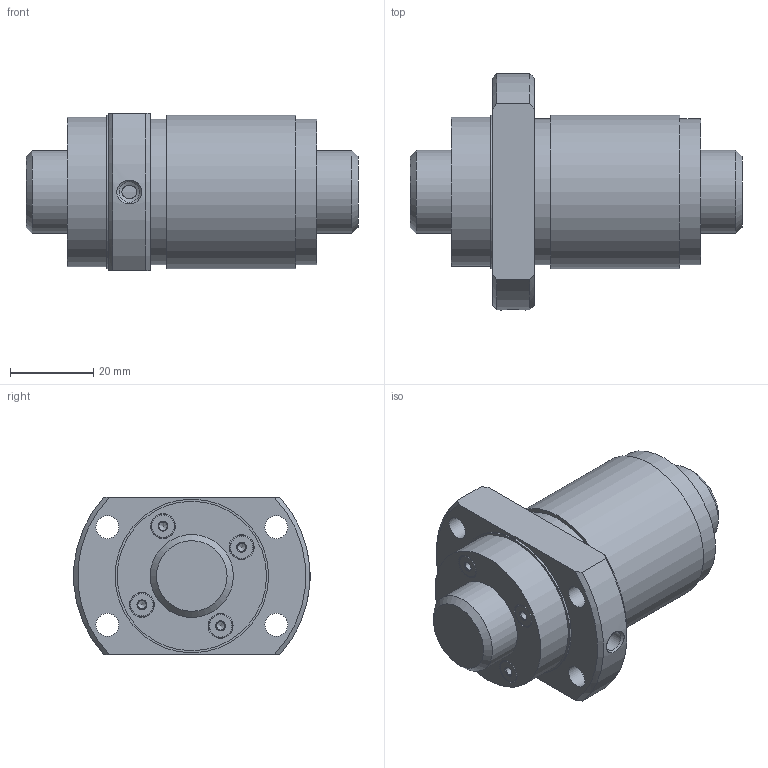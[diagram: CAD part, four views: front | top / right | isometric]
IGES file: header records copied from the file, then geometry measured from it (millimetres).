
Start section: Data from Parasolid IGES Translator 26.0.171, Copyright(c) 2006 Siemens PLM Software. All Rights Reserved.
Global section: file name: WGF2060-1.5G1+80LC3_0_13_0_0.igs; native system: By Siemens PLM Incorporated; preprocessor: XPlus GENERIC/IGES 26.0.171; author: Noname; organization: Noname; date: 20250116.062617; units: millimetre
Bounding box: 80 x 56.91 x 38 mm (x, y, z)
Surface area: 21761.6 mm2 (no closed solid volume)
Topology: 0 solids, 0 shells, 65 faces, 262 edges, 206 vertices
Faces by surface type: revolution 46, extrusion 19
